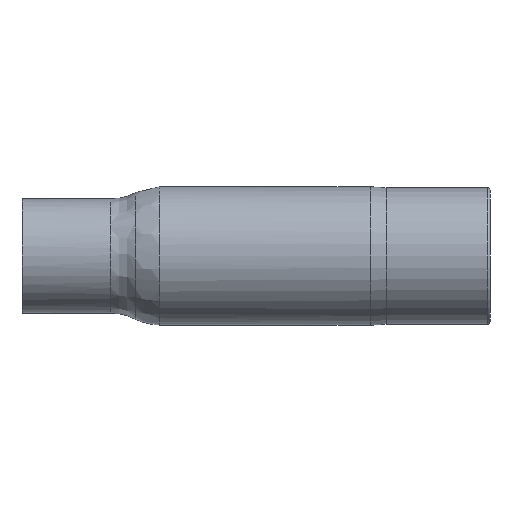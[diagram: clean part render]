
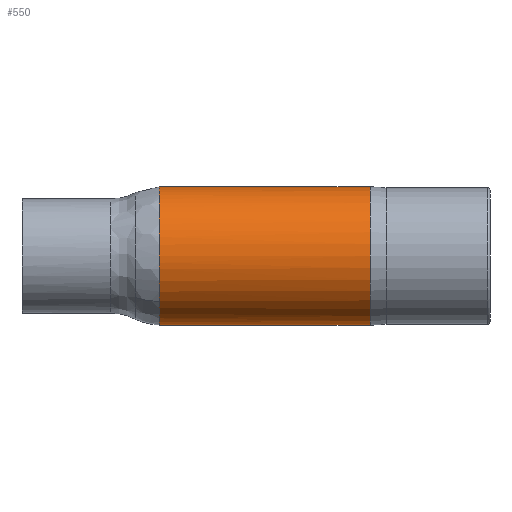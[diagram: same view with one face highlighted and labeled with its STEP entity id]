
A CAD part, front view. The second image highlights one B-rep face of the part: STEP entity #550.
In plain terms, the highlighted cylindrical face has radius 13.3 mm (diameter 26.6 mm), a full revolution.
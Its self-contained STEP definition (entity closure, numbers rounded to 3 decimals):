
#16=ELLIPSE('',#605,14.396,13.3);
#18=ELLIPSE('',#616,39.259,13.3);
#19=ELLIPSE('',#621,39.259,13.3);
#36=LINE('',#1656,#49);
#49=VECTOR('',#753,13.3);
#59=CYLINDRICAL_SURFACE('',#622,13.3);
#99=FACE_OUTER_BOUND('',#134,.T.);
#134=EDGE_LOOP('',(#499,#500,#501,#502,#503,#504,#505,#506,#507));
#151=CIRCLE('',#588,13.3);
#184=B_SPLINE_CURVE_WITH_KNOTS('',3,(#1190,#1191,#1192,#1193,#1194,#1195),
 .UNSPECIFIED.,.F.,.F.,(4,1,1,4),(2.539,2.689,2.9,
3.11),.UNSPECIFIED.);
#197=B_SPLINE_CURVE_WITH_KNOTS('',3,(#1431,#1432,#1433,#1434,#1435),
 .UNSPECIFIED.,.F.,.F.,(4,1,4),(1.037,1.209,1.272),
 .UNSPECIFIED.);
#198=B_SPLINE_CURVE_WITH_KNOTS('',3,(#1436,#1437,#1438,#1439,#1440,#1441,
#1442,#1443,#1444),.UNSPECIFIED.,.F.,.F.,(4,1,1,1,1,1,4),(1.272,
1.382,1.554,1.727,1.899,2.072,
2.079),.UNSPECIFIED.);
#223=VERTEX_POINT('',#975);
#240=VERTEX_POINT('',#1137);
#241=VERTEX_POINT('',#1139);
#246=VERTEX_POINT('',#1183);
#248=VERTEX_POINT('',#1189);
#254=VERTEX_POINT('',#1420);
#255=VERTEX_POINT('',#1430);
#284=EDGE_CURVE('',#223,#223,#151,.T.);
#305=EDGE_CURVE('',#241,#240,#16,.T.);
#314=EDGE_CURVE('',#246,#248,#184,.T.);
#329=EDGE_CURVE('',#248,#255,#197,.T.);
#330=EDGE_CURVE('',#255,#254,#198,.T.);
#333=EDGE_CURVE('',#241,#246,#18,.T.);
#338=EDGE_CURVE('',#254,#240,#19,.T.);
#339=EDGE_CURVE('',#255,#223,#36,.T.);
#499=ORIENTED_EDGE('',*,*,#333,.F.);
#500=ORIENTED_EDGE('',*,*,#305,.T.);
#501=ORIENTED_EDGE('',*,*,#338,.F.);
#502=ORIENTED_EDGE('',*,*,#330,.F.);
#503=ORIENTED_EDGE('',*,*,#339,.T.);
#504=ORIENTED_EDGE('',*,*,#284,.F.);
#505=ORIENTED_EDGE('',*,*,#339,.F.);
#506=ORIENTED_EDGE('',*,*,#329,.F.);
#507=ORIENTED_EDGE('',*,*,#314,.F.);
#550=ADVANCED_FACE('',(#99),#59,.T.);
#588=AXIS2_PLACEMENT_3D('',#977,#675,#676);
#605=AXIS2_PLACEMENT_3D('',#1140,#713,#714);
#616=AXIS2_PLACEMENT_3D('',#1549,#739,#740);
#621=AXIS2_PLACEMENT_3D('',#1654,#749,#750);
#622=AXIS2_PLACEMENT_3D('',#1655,#751,#752);
#675=DIRECTION('center_axis',(1.,0.,0.));
#676=DIRECTION('ref_axis',(0.,1.,0.));
#713=DIRECTION('center_axis',(0.924,-0.383,0.));
#714=DIRECTION('ref_axis',(0.383,0.924,0.));
#739=DIRECTION('center_axis',(0.339,0.941,0.));
#740=DIRECTION('ref_axis',(-0.941,0.339,0.));
#749=DIRECTION('center_axis',(0.339,0.941,0.));
#750=DIRECTION('ref_axis',(-0.941,0.339,0.));
#751=DIRECTION('center_axis',(-1.,0.,0.));
#752=DIRECTION('ref_axis',(0.,1.,0.));
#753=DIRECTION('',(1.,0.,0.));
#975=CARTESIAN_POINT('',(-8.,-13.3,0.));
#977=CARTESIAN_POINT('Origin',(-8.,0.,0.));
#1137=CARTESIAN_POINT('',(-20.266,0.,13.3));
#1139=CARTESIAN_POINT('',(-20.266,0.,-13.3));
#1140=CARTESIAN_POINT('Origin',(-20.266,0.,0.));
#1183=CARTESIAN_POINT('',(-48.608,10.205,-8.529));
#1189=CARTESIAN_POINT('',(-48.608,-10.049,-8.713));
#1190=CARTESIAN_POINT('Ctrl Pts',(-48.608,10.204,-8.529));
#1191=CARTESIAN_POINT('Ctrl Pts',(-48.608,8.904,-10.078));
#1192=CARTESIAN_POINT('Ctrl Pts',(-48.608,4.945,-13.091));
#1193=CARTESIAN_POINT('Ctrl Pts',(-48.608,-3.092,-13.891));
#1194=CARTESIAN_POINT('Ctrl Pts',(-48.608,-8.197,-10.848));
#1195=CARTESIAN_POINT('Ctrl Pts',(-48.608,-10.049,-8.713));
#1420=CARTESIAN_POINT('',(-48.608,10.205,8.529));
#1430=CARTESIAN_POINT('',(-48.608,-13.3,0.));
#1431=CARTESIAN_POINT('Ctrl Pts',(-48.608,-10.049,-8.713));
#1432=CARTESIAN_POINT('Ctrl Pts',(-48.608,-11.567,-6.962));
#1433=CARTESIAN_POINT('Ctrl Pts',(-48.608,-13.003,-4.015));
#1434=CARTESIAN_POINT('Ctrl Pts',(-48.608,-13.3,-0.849));
#1435=CARTESIAN_POINT('Ctrl Pts',(-48.608,-13.299,0.));
#1436=CARTESIAN_POINT('Ctrl Pts',(-48.608,-13.299,0.));
#1437=CARTESIAN_POINT('Ctrl Pts',(-48.608,-13.297,1.469));
#1438=CARTESIAN_POINT('Ctrl Pts',(-48.608,-12.671,5.257));
#1439=CARTESIAN_POINT('Ctrl Pts',(-48.608,-9.146,10.499));
#1440=CARTESIAN_POINT('Ctrl Pts',(-48.608,-2.681,13.658));
#1441=CARTESIAN_POINT('Ctrl Pts',(-48.608,4.498,13.178));
#1442=CARTESIAN_POINT('Ctrl Pts',(-48.608,8.569,10.446));
#1443=CARTESIAN_POINT('Ctrl Pts',(-48.608,10.14,8.608));
#1444=CARTESIAN_POINT('Ctrl Pts',(-48.608,10.205,8.53));
#1549=CARTESIAN_POINT('Origin',(-20.266,0.,0.));
#1654=CARTESIAN_POINT('Origin',(-20.266,0.,0.));
#1655=CARTESIAN_POINT('Origin',(8.545,0.,0.));
#1656=CARTESIAN_POINT('',(8.545,-13.3,0.));
